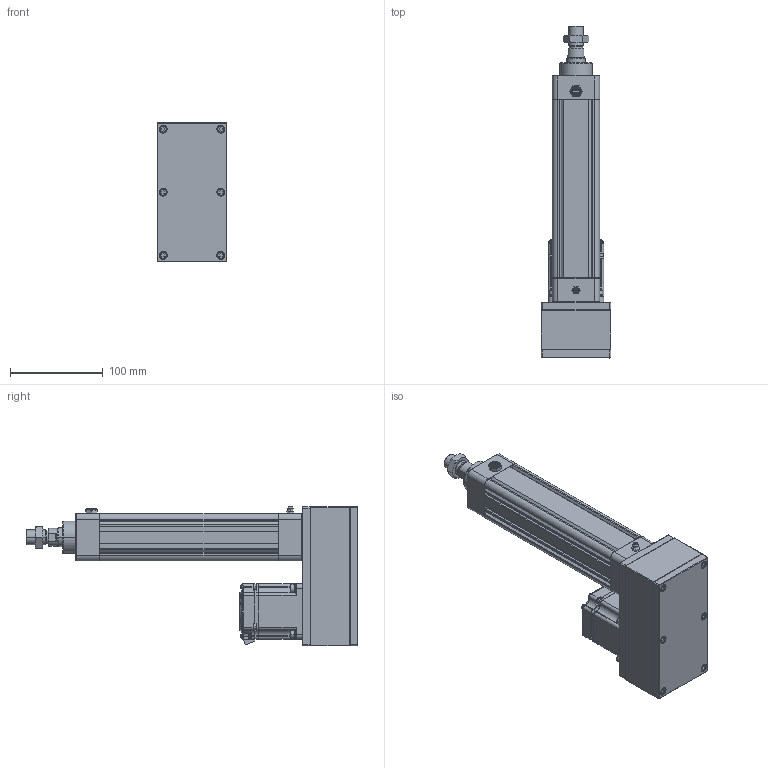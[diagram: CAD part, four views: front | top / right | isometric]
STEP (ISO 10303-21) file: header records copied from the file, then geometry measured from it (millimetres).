
FILE_DESCRIPTION((''),'2;1');
FILE_NAME('ASM0001_ASM','2020-04-07T',('ASUS20200'),(''),'CREO PARAMETRIC BY PTC INC, 2014190','CREO PARAMETRIC BY PTC INC, 2014190','');
FILE_SCHEMA(('CONFIG_CONTROL_DESIGN'));
Length unit declared in the file: millimetre
Products named in the file (23): HE40-D-P-001-X1; HE40-D-P-002-X1; HE40-D-P-003-X1; 6200ZZ; SLM-01; YZ-M6X1; JDB202820; HE40-P-010-X1-200W; _MHMF022L1A2; MHMF022L1A2M2_1_ASM; MHMF022L1A2M2_ASM; JX5X5X20; TD-5; M5X20; LM-M6X1; HE40-P-012-X2; HE40-P-014-X1; M4X65; HE40-D-P-005-X1; HE40-D-P-004-X1; HE40-D-P-008-X1; LGLM-M6-22; ASM0001_ASM
Assembly tree (39 placements, depth 4):
  ASM0001_ASM
    HE40-D-P-001-X1
    HE40-D-P-002-X1
    HE40-D-P-003-X1
    6200ZZ
    SLM-01
    YZ-M6X1
    JDB202820
    HE40-P-010-X1-200W
    MHMF022L1A2M2_ASM
      MHMF022L1A2M2_1_ASM
        _MHMF022L1A2
    JX5X5X20
    TD-5  x4
    M5X20  x4
    LM-M6X1  x4
    HE40-P-012-X2
    HE40-P-014-X1
    M4X65  x6
    HE40-D-P-005-X1
    HE40-D-P-004-X1
    HE40-D-P-008-X1
    LGLM-M6-22  x4
Bounding box: 75 x 357.5 x 150.5 mm (x, y, z)
Volume: 865435.6 mm3; surface area: 300789.6 mm2
Topology: 37 solids, 60 shells, 1851 faces, 4343 edges, 2662 vertices
Faces by surface type: plane 691, cylinder 531, cone 493, torus 110, sphere 22, bspline 4
Entity records: 44678 total; most frequent: CARTESIAN_POINT 8466, DIRECTION 8083, ORIENTED_EDGE 6978, EDGE_CURVE 3529, AXIS2_PLACEMENT_3D 3120, VERTEX_POINT 2181, VECTOR 1843, LINE 1843
